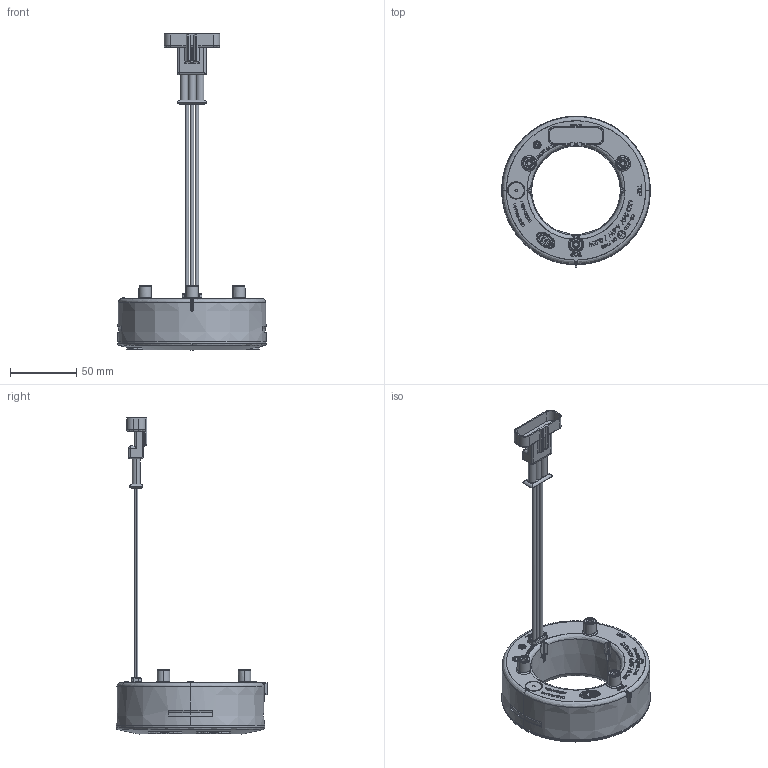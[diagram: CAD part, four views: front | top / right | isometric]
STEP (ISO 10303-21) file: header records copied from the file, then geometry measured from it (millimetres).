
FILE_DESCRIPTION(('CATIA V5 STEP Exchange','CAx-IF Rec.Pracs.--- Model Styling and Organization---1.5--- 2016-08-15','CAx-IF Rec.Pracs.---Supplemental Geometry---1.0---2011-11-01','CAx-IF Rec.Pracs.--- Composite Materials ---1.1---2010-07-15'),'2;1');
FILE_NAME('E:\tmp\ddx\2011206\HELLA_3D_data_LED_rear_lamp_ring_module_112mm_2SB-009-362.stp','2022-01-18T07:33:47+00:00',('none'),('none'),'CATIA Version 5-6 Release 2020 SP3 HF9','CATIA V5 STEP AP214 Edition 3 v2','none');
FILE_SCHEMA(('AUTOMOTIVE_DESIGN { 1 0 10303 214 3 1 1 1 }'));
Products named in the file (1): 10000277052_D10_001
Bounding box: 112.33 x 114.65 x 238.86 mm (x, y, z)
Surface area: 68580.2 mm2 (no closed solid volume)
Topology: 0 solids, 2257 shells, 2261 faces, 21345 edges, 21323 vertices
Faces by surface type: plane 1238, bspline 797, cylinder 136, revolution 90
Entity records: 226150 total; most frequent: CARTESIAN_POINT 119010, ORIENTED_EDGE 21331, EDGE_CURVE 21327, VERTEX_POINT 21323, B_SPLINE_CURVE_WITH_KNOTS 19965, DIRECTION 3742, EDGE_LOOP 2510, ADVANCED_FACE 2261
